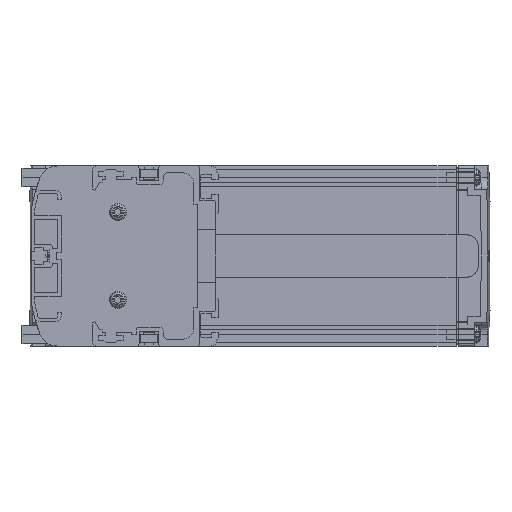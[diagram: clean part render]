
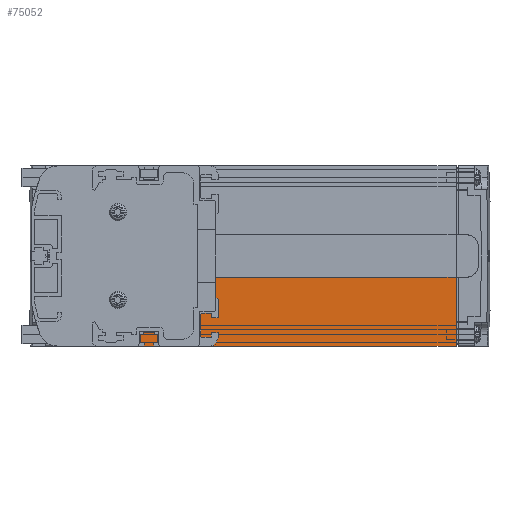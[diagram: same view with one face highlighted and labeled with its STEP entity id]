
A CAD part, left-side view. The second image highlights one B-rep face of the part: STEP entity #75052.
In plain terms, the highlighted planar face has unit normal (-1, 0, 0).
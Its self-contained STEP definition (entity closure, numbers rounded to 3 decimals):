
#72993=DIRECTION('',(0.,1.,0.));
#72994=VECTOR('',#72993,51.);
#72995=CARTESIAN_POINT('',(3.,16.,-27.));
#72996=LINE('',#72995,#72994);
#73642=DIRECTION('',(0.,1.,0.));
#73643=VECTOR('',#73642,170.);
#73644=CARTESIAN_POINT('',(3.,-103.,-39.));
#73645=LINE('',#73644,#73643);
#73660=DIRECTION('',(0.,0.,1.));
#73661=VECTOR('',#73660,29.9);
#73662=CARTESIAN_POINT('',(3.,-103.,-39.));
#73663=LINE('',#73662,#73661);
#73664=DIRECTION('',(0.,0.,-1.));
#73665=VECTOR('',#73664,12.);
#73666=CARTESIAN_POINT('',(3.,67.,-27.));
#73667=LINE('',#73666,#73665);
#73668=DIRECTION('',(0.,0.,-1.));
#73669=VECTOR('',#73668,17.9);
#73670=CARTESIAN_POINT('',(3.,16.,-9.1));
#73671=LINE('',#73670,#73669);
#73778=DIRECTION('',(0.,1.,0.));
#73779=VECTOR('',#73778,119.);
#73780=CARTESIAN_POINT('',(3.,-103.,-9.1));
#73781=LINE('',#73780,#73779);
#73865=CARTESIAN_POINT('',(3.,67.,-27.));
#73867=VERTEX_POINT('',#73865);
#73959=CARTESIAN_POINT('',(3.,67.,-39.));
#73960=VERTEX_POINT('',#73959);
#74033=CARTESIAN_POINT('',(3.,-103.,-39.));
#74034=VERTEX_POINT('',#74033);
#74035=CARTESIAN_POINT('',(3.,-103.,-9.1));
#74036=VERTEX_POINT('',#74035);
#74097=CARTESIAN_POINT('',(3.,16.,-27.));
#74098=VERTEX_POINT('',#74097);
#74099=CARTESIAN_POINT('',(3.,16.,-9.1));
#74100=VERTEX_POINT('',#74099);
#75037=CARTESIAN_POINT('',(3.,-18.,-24.05));
#75038=DIRECTION('',(1.,0.,0.));
#75039=DIRECTION('',(0.,0.,-1.));
#75040=AXIS2_PLACEMENT_3D('',#75037,#75038,#75039);
#75041=PLANE('',#75040);
#75042=ORIENTED_EDGE('',*,*,#74283,.F.);
#75044=ORIENTED_EDGE('',*,*,#75043,.F.);
#75046=ORIENTED_EDGE('',*,*,#75045,.F.);
#75047=ORIENTED_EDGE('',*,*,#74611,.F.);
#75048=ORIENTED_EDGE('',*,*,#75025,.T.);
#75049=ORIENTED_EDGE('',*,*,#74152,.F.);
#75050=EDGE_LOOP('',(#75042,#75044,#75046,#75047,#75048,#75049));
#75051=FACE_OUTER_BOUND('',#75050,.F.);
#75052=ADVANCED_FACE('',(#75051),#75041,.F.);
#74152=EDGE_CURVE('',#73867,#73960,#73667,.T.);
#74283=EDGE_CURVE('',#74098,#73867,#72996,.T.);
#74611=EDGE_CURVE('',#74034,#74036,#73663,.T.);
#75025=EDGE_CURVE('',#74034,#73960,#73645,.T.);
#75043=EDGE_CURVE('',#74100,#74098,#73671,.T.);
#75045=EDGE_CURVE('',#74036,#74100,#73781,.T.);
